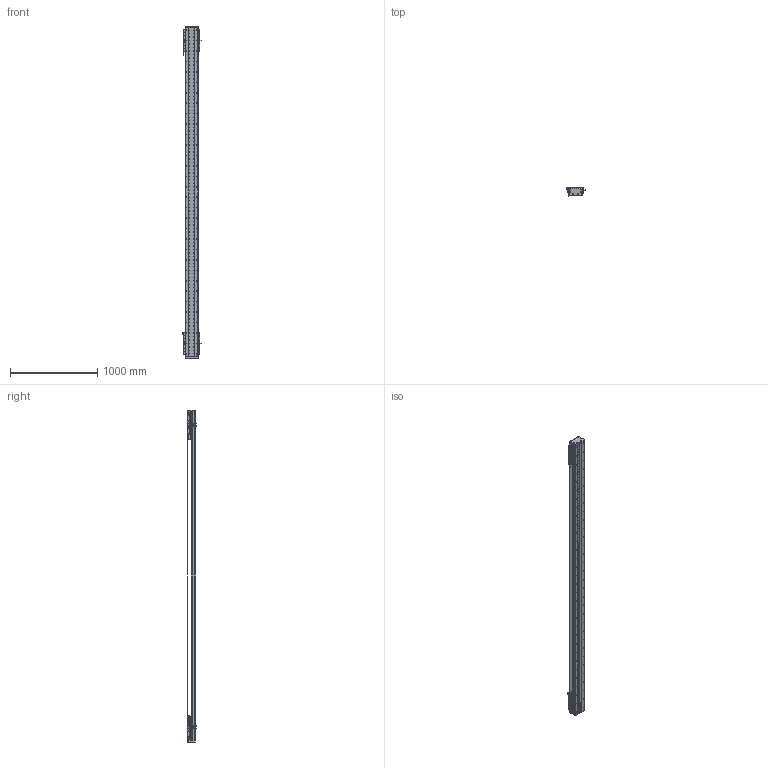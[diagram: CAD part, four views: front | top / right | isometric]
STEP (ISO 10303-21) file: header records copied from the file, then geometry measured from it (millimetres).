
FILE_DESCRIPTION (( 'STEP AP203' ), '1' );
FILE_NAME ('DA-C145-2-C3-T3200-C010-0.2 眻盄萇儂.STEP', '2025-08-14T00:40:34', ( '' ), ( '' ), 'SwSTEP 2.0', 'SolidWorks 2019', '' );
FILE_SCHEMA (( 'CONFIG_CONTROL_DESIGN' ));
Length unit declared in the file: millimetre
Products named in the file (38): 葩璃 PM-T45^DA-C145-2-C3-T-C010-0.2; CU145-W-00 珨极趙賑雄怢啣-1; CU145-W 幗紩賑怢-1; 葩璃 鞠褒情蹟譫 M3^DA-C145-2-C3-T-C010-0.2; 葩璃 CKM03-W060-C1C2-TP-0.2^DA-C145-2-C3-T-C010-0.2; 葩璃 CU145 詩湍郪璃^DA-C145-2-C3-T-C010-0.2; TAY01-M8; DKW168-HXJ-ZJ-00 笢潔滅袉砎蝶; 复件 纯铜油杯 6x6mm^CU145-W 滚珠滑台; 葩璃 DA95-GT-T-00^IU-CU145-L 菁釱絳寢; 葩璃 DA95-HXJ-00 遣喳砎蝶^DA-C145-2-C3-T-C010-0.2; 复件 内六角平端紧定螺钉 GB.T77-2000 M5×10^CU145-W 滚珠滑台; 复件 DA95-DB-00  挡板^CU145-W 滚珠滑台; 葩璃 XD-U-02L 棠掑喜^DA-C145-2-C3-T-C010-0.2; DKW-GYP-ZJ-00 笢潔嫖萇覜茼え; 复件 DA95-HK-GT-00 滑块钢轨^CU145-W-00 一体化滑动台板; 66245-CU145-HT-W-00 賑雄怢啣(3D芞祧)(00); DKW-KGZ-ZJ-00 中间光电开关支架; 复件 DA146 钢带拉块^复件 CU145 钢带组件_DA-C145-2-C3-T-C010-0.2; 复件 DA145-C3-DK-00 挡块^CU145-W 滚珠滑台; 复件 DA145-C3-YB-A-00 压板A^CU145-W 滚珠滑台; 葩璃 PM-Y65^DA-C145-2-C3-T-C010-0.2; IU-CU145-L-00 菁釱(L3780); 复件 DA146 钢带垫块^复件 CU145 钢带组件_DA-C145-2-C3-T-C010-0.2; 葩璃 DA145-C3-DP-A-00 菜えA^CU145-W 幗紩賑怢; 复件 DA145-GYP-00 光电感应片^DA-C145-2-C3-T-C010-0.2; CU145-W-00 珨极趙賑雄怢啣; 复件 DA145-C3-YB-B-00 压板B^CU145-W 滚珠滑台; 葩璃 DMA-010-0.2 黍杅芛^DA-C145-2-C3-T-C010-0.2; DA-C145-2-C3-T3200-C010-0.2 眻盄萇儂; 葩璃 CKMA01-W060-TRL^DA-C145-2-C3-T-C010-0.2; 复件 DA145-DG 钢带端盖^复件 CU145 钢带组件_DA-C145-2-C3-T-C010-0.2; CU145-W 幗紩賑怢; 复件 半圆头内六角螺钉 M3×6^CU145-W 滚珠滑台; 复件 DA145 钢带^复件 CU145 钢带组件_DA-C145-2-C3-T-C010-0.2; IU-CU145-L 菁釱絳寢; 复件 DA95-MFP-01 密封片^CU145-W 滚珠滑台; 葩璃 DA145-C3-DP-B-00 菜えB^CU145-W 幗紩賑怢
Assembly tree (180 placements, depth 4):
  DA-C145-2-C3-T3200-C010-0.2 眻盄萇儂
    IU-CU145-L 菁釱絳寢
      IU-CU145-L-00 菁釱(L3780)
      葩璃 DA95-GT-T-00^IU-CU145-L 菁釱絳寢  x4
    葩璃 CU145 詩湍郪璃^DA-C145-2-C3-T-C010-0.2
      复件 DA145-DG 钢带端盖^复件 CU145 钢带组件_DA-C145-2-C3-T-C010-0.2  x2
      复件 DA146 钢带拉块^复件 CU145 钢带组件_DA-C145-2-C3-T-C010-0.2  x2
      复件 DA146 钢带垫块^复件 CU145 钢带组件_DA-C145-2-C3-T-C010-0.2  x2
      复件 DA145 钢带^复件 CU145 钢带组件_DA-C145-2-C3-T-C010-0.2
    CU145-W 幗紩賑怢
      CU145-W-00 珨极趙賑雄怢啣
        66245-CU145-HT-W-00 賑雄怢啣(3D芞祧)(00)
        复件 DA95-HK-GT-00 滑块钢轨^CU145-W-00 一体化滑动台板  x8
      复件 DA95-MFP-01 密封片^CU145-W 滚珠滑台  x8
      复件 DA95-DB-00  挡板^CU145-W 滚珠滑台  x8
      复件 内六角平端紧定螺钉 GB.T77-2000 M5×10^CU145-W 滚珠滑台  x4
      复件 纯铜油杯 6x6mm^CU145-W 滚珠滑台  x4
      复件 半圆头内六角螺钉 M3×6^CU145-W 滚珠滑台  x16
      复件 DA145-C3-DK-00 挡块^CU145-W 滚珠滑台  x4
      葩璃 DA145-C3-DP-B-00 菜えB^CU145-W 幗紩賑怢  x2
      复件 DA145-C3-YB-B-00 压板B^CU145-W 滚珠滑台  x2
      葩璃 DA145-C3-DP-A-00 菜えA^CU145-W 幗紩賑怢  x3
      复件 DA145-C3-YB-A-00 压板A^CU145-W 滚珠滑台  x3
      TAY01-M8  x4
    CU145-W 幗紩賑怢-1
      CU145-W-00 珨极趙賑雄怢啣-1
        66245-CU145-HT-W-00 賑雄怢啣(3D芞祧)(00)
        复件 DA95-HK-GT-00 滑块钢轨^CU145-W-00 一体化滑动台板  x8
      复件 DA95-MFP-01 密封片^CU145-W 滚珠滑台  x8
      复件 DA95-DB-00  挡板^CU145-W 滚珠滑台  x8
      复件 内六角平端紧定螺钉 GB.T77-2000 M5×10^CU145-W 滚珠滑台  x4
      复件 纯铜油杯 6x6mm^CU145-W 滚珠滑台  x4
      复件 半圆头内六角螺钉 M3×6^CU145-W 滚珠滑台  x16
      复件 DA145-C3-DK-00 挡块^CU145-W 滚珠滑台  x4
      葩璃 DA145-C3-DP-B-00 菜えB^CU145-W 幗紩賑怢  x2
      复件 DA145-C3-YB-B-00 压板B^CU145-W 滚珠滑台  x2
      葩璃 DA145-C3-DP-A-00 菜えA^CU145-W 幗紩賑怢  x3
      复件 DA145-C3-YB-A-00 压板A^CU145-W 滚珠滑台  x3
      TAY01-M8  x4
    葩璃 CKMA01-W060-TRL^DA-C145-2-C3-T-C010-0.2
    葩璃 PM-T45^DA-C145-2-C3-T-C010-0.2  x4
    葩璃 XD-U-02L 棠掑喜^DA-C145-2-C3-T-C010-0.2
    葩璃 DA95-HXJ-00 遣喳砎蝶^DA-C145-2-C3-T-C010-0.2  x4
    葩璃 CKM03-W060-C1C2-TP-0.2^DA-C145-2-C3-T-C010-0.2  x2
    葩璃 DMA-010-0.2 黍杅芛^DA-C145-2-C3-T-C010-0.2  x2
    复件 DA145-GYP-00 光电感应片^DA-C145-2-C3-T-C010-0.2  x2
    DKW-GYP-ZJ-00 笢潔嫖萇覜茼え
    DKW-KGZ-ZJ-00 中间光电开关支架
    葩璃 PM-Y65^DA-C145-2-C3-T-C010-0.2
    葩璃 鞠褒情蹟譫 M3^DA-C145-2-C3-T-C010-0.2  x8
    DKW168-HXJ-ZJ-00 笢潔滅袉砎蝶
Bounding box: 213.7 x 108.45 x 3816 mm (x, y, z)
Volume: 18867114.6 mm3; surface area: 6189963.7 mm2
Topology: 175 solids, 239 shells, 8043 faces, 22485 edges, 14009 vertices
Faces by surface type: cylinder 3732, plane 2971, cone 1184, torus 140, sphere 8, bspline 8
Entity records: 169432 total; most frequent: CARTESIAN_POINT 52538, ORIENTED_EDGE 23656, DIRECTION 21829, EDGE_CURVE 11828, AXIS2_PLACEMENT_3D 8079, VERTEX_POINT 7708, LINE 5671, VECTOR 5671
